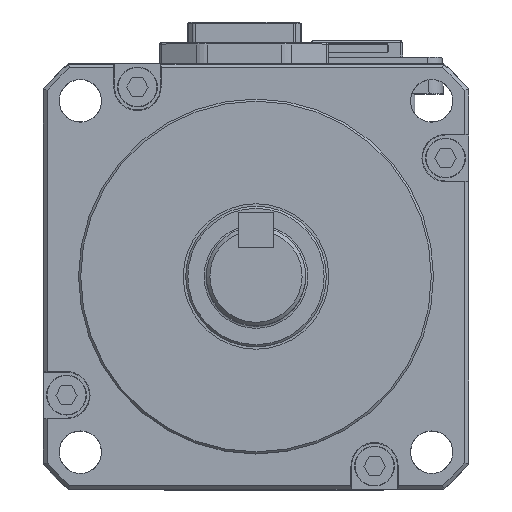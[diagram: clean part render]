
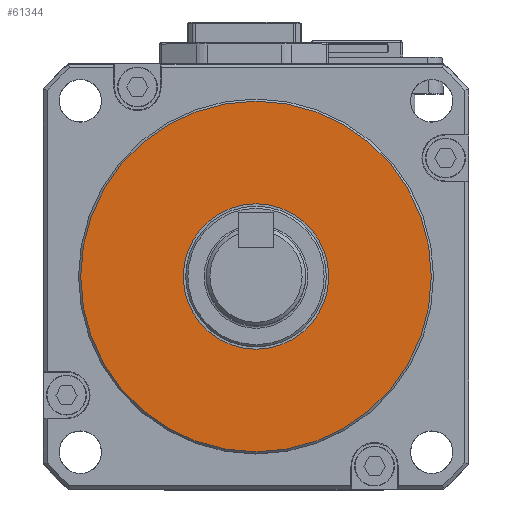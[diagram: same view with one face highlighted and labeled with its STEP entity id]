
A CAD part, top view. The second image highlights one B-rep face of the part: STEP entity #61344.
In plain terms, the highlighted planar face has unit normal (0, 0, 1).
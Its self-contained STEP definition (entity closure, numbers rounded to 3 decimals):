
#7221 = ORIENTED_EDGE ( 'NONE', *, *, #36995, .T. ) ;
#8854 = FACE_BOUND ( 'NONE', #8905, .T. ) ;
#8905 = EDGE_LOOP ( 'NONE', ( #63096 ) ) ;
#9701 = VERTEX_POINT ( 'NONE', #48701 ) ;
#12456 = CIRCLE ( 'NONE', #23665, 10.25 ) ;
#13652 = FACE_OUTER_BOUND ( 'NONE', #26845, .T. ) ;
#18126 = EDGE_CURVE ( 'NONE', #9701, #9701, #12456, .T. ) ;
#19675 = PLANE ( 'NONE',  #29680 ) ;
#21878 = CARTESIAN_POINT ( 'NONE',  ( 0., 0., 10. ) ) ;
#23665 = AXIS2_PLACEMENT_3D ( 'NONE', #21878, #56659, #37835 ) ;
#26845 = EDGE_LOOP ( 'NONE', ( #7221 ) ) ;
#27243 = VERTEX_POINT ( 'NONE', #37101 ) ;
#27424 = AXIS2_PLACEMENT_3D ( 'NONE', #30252, #34405, #29654 ) ;
#29654 = DIRECTION ( 'NONE',  ( 1., 0., 0. ) ) ;
#29680 = AXIS2_PLACEMENT_3D ( 'NONE', #43092, #47889, #62505 ) ;
#30252 = CARTESIAN_POINT ( 'NONE',  ( 0., 0., 10. ) ) ;
#34405 = DIRECTION ( 'NONE',  ( 0., 0., 1. ) ) ;
#36995 = EDGE_CURVE ( 'NONE', #27243, #27243, #54929, .T. ) ;
#37101 = CARTESIAN_POINT ( 'NONE',  ( 24.7, 0., 10. ) ) ;
#37835 = DIRECTION ( 'NONE',  ( 1., 0., 0. ) ) ;
#43092 = CARTESIAN_POINT ( 'NONE',  ( 0., 0., 10. ) ) ;
#47889 = DIRECTION ( 'NONE',  ( 0., 0., 1. ) ) ;
#48701 = CARTESIAN_POINT ( 'NONE',  ( 10.25, 0., 10. ) ) ;
#54929 = CIRCLE ( 'NONE', #27424, 24.7 ) ;
#56659 = DIRECTION ( 'NONE',  ( 0., 0., 1. ) ) ;
#61344 = ADVANCED_FACE ( 'NONE', ( #13652, #8854 ), #19675, .T. ) ;
#62505 = DIRECTION ( 'NONE',  ( 1., 0., 0. ) ) ;
#63096 = ORIENTED_EDGE ( 'NONE', *, *, #18126, .F. ) ;
